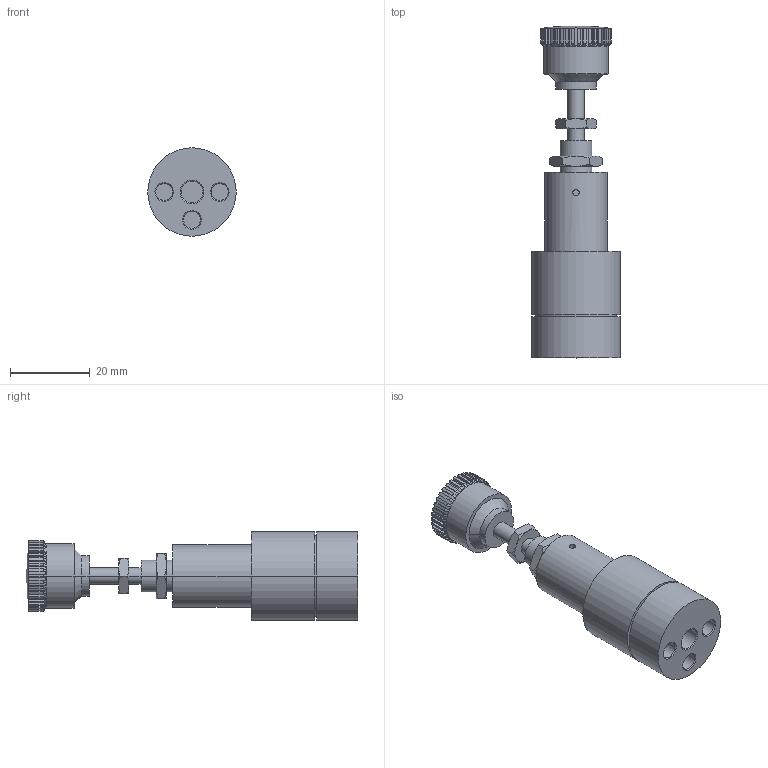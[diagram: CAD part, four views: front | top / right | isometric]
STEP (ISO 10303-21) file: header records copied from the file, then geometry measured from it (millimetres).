
FILE_DESCRIPTION((''),'2;1');
FILE_NAME('U:\AirCom-Produktdokumentation\Druckregler\RT\Zeichnungen\CAD-Aircom\3D\B-RT-M5x.stp','2012-01-30T13:46:53',('frank schroers'),(''),'Autodesk Inventor 2008','Autodesk Inventor 2008','');
FILE_SCHEMA(('AUTOMOTIVE_DESIGN { 1 0 10303 214 1 1 1 1 }'));
Length unit declared in the file: inch
Products named in the file (2): RT-M5; B-RT-M5
Assembly tree (1 placements, depth 2):
  RT-M5
    B-RT-M5
Bounding box: 22.23 x 83.44 x 22.23 mm (x, y, z)
Volume: 17500.8 mm3; surface area: 6193 mm2
Topology: 1 solids, 1 shells, 244 faces, 643 edges, 417 vertices
Faces by surface type: plane 143, cylinder 65, cone 34, sphere 2
Full cylindrical faces by diameter (mm): 4.2 x3, 5.45 x1
Entity records: 8195 total; most frequent: CARTESIAN_POINT 2121, ORIENTED_EDGE 1270, DIRECTION 1243, EDGE_CURVE 635, AXIS2_PLACEMENT_3D 525, VERTEX_POINT 417, CIRCLE 278, EDGE_LOOP 268
